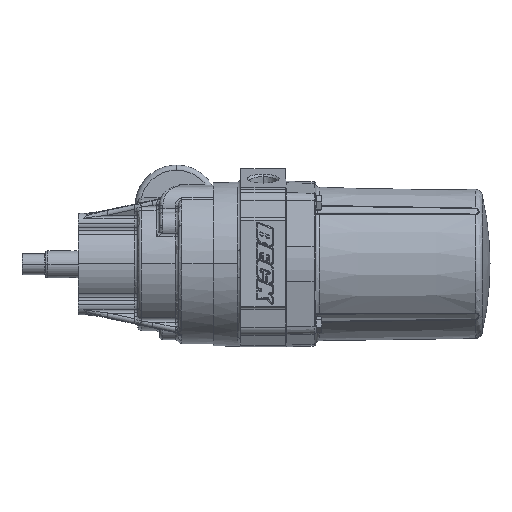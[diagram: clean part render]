
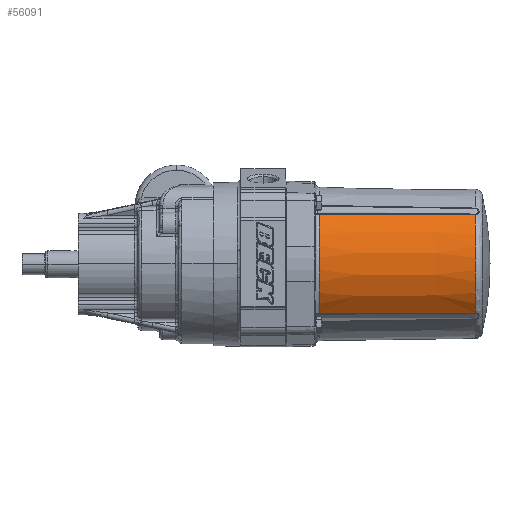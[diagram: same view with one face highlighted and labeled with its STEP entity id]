
A CAD part, top view. The second image highlights one B-rep face of the part: STEP entity #56091.
In plain terms, the highlighted conical face has half-angle 0.816 degrees and reference radius 68.542 mm.
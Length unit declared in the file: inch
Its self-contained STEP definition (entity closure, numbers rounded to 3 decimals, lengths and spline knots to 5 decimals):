
#4307 = CARTESIAN_POINT ( 'NONE',  ( 6.90849, 0., 0. ) ) ;
#4316 = DIRECTION ( 'NONE',  ( 1., 0., 0. ) ) ;
#4317 = DIRECTION ( 'NONE',  ( 0., 1., 0. ) ) ;
#4327 = CARTESIAN_POINT ( 'NONE',  ( 5.96515, 1.78968, 2.03761 ) ) ;
#4328 = CARTESIAN_POINT ( 'NONE',  ( 5.02178, 1.79117, 2.05414 ) ) ;
#4329 = CARTESIAN_POINT ( 'NONE',  ( 3.13501, 1.796, 2.08551 ) ) ;
#4330 = CARTESIAN_POINT ( 'NONE',  ( 2.19162, 1.79937, 2.10031 ) ) ;
#4331 = CARTESIAN_POINT ( 'NONE',  ( 1.24822, 1.80344, 2.1145 ) ) ;
#4332 = CARTESIAN_POINT ( 'NONE',  ( 1.24822, 0., 0. ) ) ;
#4333 = CARTESIAN_POINT ( 'NONE',  ( 6.90849, 1.78976, 2.01959 ) ) ;
#4431 = CARTESIAN_POINT ( 'NONE',  ( 5.02178, -1.79117, 2.05414 ) ) ;
#4694 = CARTESIAN_POINT ( 'NONE',  ( 1.24822, -1.80344, 2.1145 ) ) ;
#4745 = CARTESIAN_POINT ( 'NONE',  ( 2.19162, -1.79937, 2.10031 ) ) ;
#4747 = DIRECTION ( 'NONE',  ( 0., -1., 0. ) ) ;
#4797 = CARTESIAN_POINT ( 'NONE',  ( 5.96515, -1.78968, 2.03761 ) ) ;
#4799 = CARTESIAN_POINT ( 'NONE',  ( 6.90849, -1.78976, 2.01959 ) ) ;
#4808 = CARTESIAN_POINT ( 'NONE',  ( 3.13501, -1.796, 2.08551 ) ) ;
#4819 = DIRECTION ( 'NONE',  ( 1., 0., 0. ) ) ;
#6692 = CARTESIAN_POINT ( 'NONE',  ( 6.90849, 1.78976, 2.01959 ) ) ;
#6694 = CARTESIAN_POINT ( 'NONE',  ( 6.90849, -1.78976, 2.01959 ) ) ;
#17734 = CIRCLE ( 'NONE', #40669, 2.69852 ) ;
#17855 = CIRCLE ( 'NONE', #40736, 2.77912 ) ;
#20909 = DIRECTION ( 'NONE',  ( 0., -1., 0. ) ) ;
#20926 = DIRECTION ( 'NONE',  ( -1., 0., 0. ) ) ;
#21136 = CARTESIAN_POINT ( 'NONE',  ( 6.90849, 0., 0. ) ) ;
#21453 = EDGE_LOOP ( 'NONE', ( #73454, #73455, #73456, #73453 ) ) ;
#31979 = CARTESIAN_POINT ( 'NONE',  ( 1.24822, -1.80344, 2.1145 ) ) ;
#31982 = CARTESIAN_POINT ( 'NONE',  ( 1.24822, 1.80344, 2.1145 ) ) ;
#32302 = VERTEX_POINT ( 'NONE', #6692 ) ;
#32304 = VERTEX_POINT ( 'NONE', #6694 ) ;
#32410 = VERTEX_POINT ( 'NONE', #31982 ) ;
#32411 = VERTEX_POINT ( 'NONE', #31979 ) ;
#40669 = AXIS2_PLACEMENT_3D ( 'NONE', #4307, #4316, #4317 ) ;
#40736 = AXIS2_PLACEMENT_3D ( 'NONE', #4332, #4819, #4747 ) ;
#40869 = B_SPLINE_CURVE_WITH_KNOTS ( 'NONE', 3,
 ( #4333, #4327, #4328, #4329, #4330, #4331 ),
 .UNSPECIFIED., .F., .F.,
 ( 4, 2, 4 ),
 ( 0., 0.0719, 0.14379 ),
 .UNSPECIFIED. ) ;
#40872 = B_SPLINE_CURVE_WITH_KNOTS ( 'NONE', 3,
 ( #4694, #4745, #4808, #4431, #4797, #4799 ),
 .UNSPECIFIED., .F., .F.,
 ( 4, 2, 4 ),
 ( 0., 0.0719, 0.14379 ),
 .UNSPECIFIED. ) ;
#41127 = EDGE_CURVE ( 'NONE', #32302, #32304, #17734, .T. ) ;
#41353 = EDGE_CURVE ( 'NONE', #32302, #32410, #40869, .T. ) ;
#41356 = EDGE_CURVE ( 'NONE', #32410, #32411, #17855, .T. ) ;
#41359 = EDGE_CURVE ( 'NONE', #32411, #32304, #40872, .T. ) ;
#53463 = FACE_OUTER_BOUND ( 'NONE', #21453, .T. ) ;
#53464 = CONICAL_SURFACE ( 'NONE', #60710, 2.69852, 0.014 ) ;
#56091 = ADVANCED_FACE ( 'NONE', ( #53463 ), #53464, .T. ) ;
#60710 = AXIS2_PLACEMENT_3D ( 'NONE', #21136, #20926, #20909 ) ;
#73453 = ORIENTED_EDGE ( 'NONE', *, *, #41359, .T. ) ;
#73454 = ORIENTED_EDGE ( 'NONE', *, *, #41127, .F. ) ;
#73455 = ORIENTED_EDGE ( 'NONE', *, *, #41353, .T. ) ;
#73456 = ORIENTED_EDGE ( 'NONE', *, *, #41356, .T. ) ;
